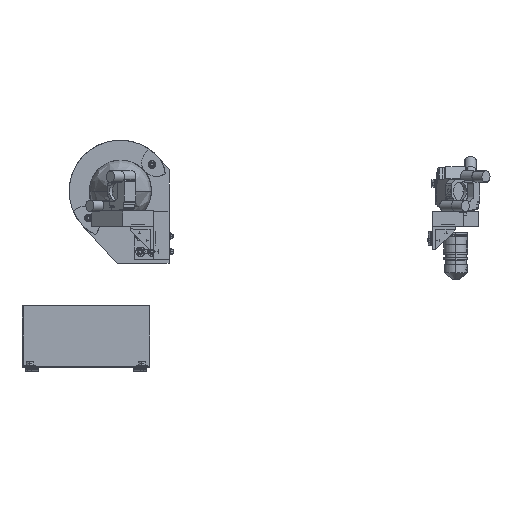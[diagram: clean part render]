
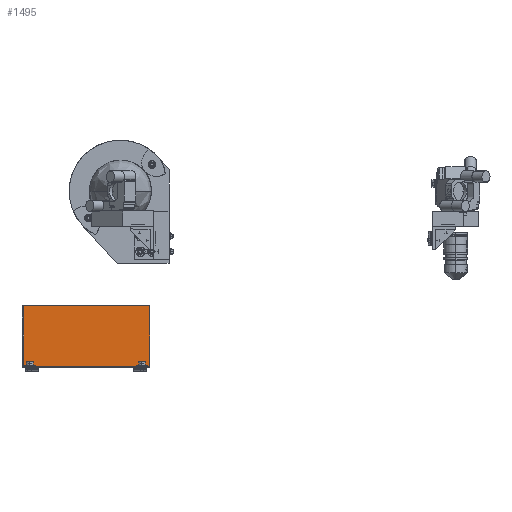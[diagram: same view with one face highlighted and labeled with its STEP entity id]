
A CAD part, left-side view. The second image highlights one B-rep face of the part: STEP entity #1495.
In plain terms, the highlighted planar face has unit normal (-1, 0, 0).
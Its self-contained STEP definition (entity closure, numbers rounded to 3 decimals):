
#1495=ADVANCED_FACE('',(#2345),#28781,.T.);
#2345=FACE_OUTER_BOUND('',#3214,.T.);
#3214=EDGE_LOOP('',(#4520,#4521,#4522,#4523));
#4520=ORIENTED_EDGE('',*,*,#23279,.F.);
#4521=ORIENTED_EDGE('',*,*,#23298,.F.);
#4522=ORIENTED_EDGE('',*,*,#23302,.F.);
#4523=ORIENTED_EDGE('',*,*,#23300,.F.);
#8630=B_SPLINE_CURVE_WITH_KNOTS('',1,(#40357,#40358),.UNSPECIFIED.,.F.,.F.,
(2,2),(404.,482.),.UNSPECIFIED.);
#8631=B_SPLINE_CURVE_WITH_KNOTS('',1,(#40359,#40360),.UNSPECIFIED.,.F.,.F.,
(2,2),(404.,482.),.UNSPECIFIED.);
#8679=B_SPLINE_CURVE_WITH_KNOTS('',1,(#40457,#40458),.UNSPECIFIED.,.F.,.F.,
(2,2),(241.,404.),.UNSPECIFIED.);
#8680=B_SPLINE_CURVE_WITH_KNOTS('',1,(#40459,#40460),.UNSPECIFIED.,.F.,.F.,
(2,2),(241.,404.),.UNSPECIFIED.);
#8685=B_SPLINE_CURVE_WITH_KNOTS('',1,(#40469,#40470),.UNSPECIFIED.,.F.,.F.,
(2,2),(0.,163.),.UNSPECIFIED.);
#8686=B_SPLINE_CURVE_WITH_KNOTS('',1,(#40471,#40472),.UNSPECIFIED.,.F.,.F.,
(2,2),(0.,163.),.UNSPECIFIED.);
#8691=B_SPLINE_CURVE_WITH_KNOTS('',1,(#40483,#40484),.UNSPECIFIED.,.F.,.F.,
(2,2),(163.,241.),.UNSPECIFIED.);
#8692=B_SPLINE_CURVE_WITH_KNOTS('',1,(#40485,#40486),.UNSPECIFIED.,.F.,.F.,
(2,2),(163.,241.),.UNSPECIFIED.);
#8695=B_SPLINE_CURVE_WITH_KNOTS('',1,(#40491,#40492),.UNSPECIFIED.,.F.,.F.,
(2,2),(404.,482.),.UNSPECIFIED.);
#8696=B_SPLINE_CURVE_WITH_KNOTS('',1,(#40493,#40494),.UNSPECIFIED.,.F.,.F.,
(2,2),(241.,404.),.UNSPECIFIED.);
#8697=B_SPLINE_CURVE_WITH_KNOTS('',1,(#40495,#40496),.UNSPECIFIED.,.F.,.F.,
(2,2),(163.,241.),.UNSPECIFIED.);
#8698=B_SPLINE_CURVE_WITH_KNOTS('',1,(#40497,#40498),.UNSPECIFIED.,.F.,.F.,
(2,2),(0.,163.),.UNSPECIFIED.);
#13089=PCURVE('',#28773,#17217);
#13119=PCURVE('',#28778,#17247);
#13123=PCURVE('',#28779,#17251);
#13127=PCURVE('',#28780,#17255);
#13130=PCURVE('',#28781,#17258);
#13131=PCURVE('',#28781,#17259);
#13132=PCURVE('',#28781,#17260);
#13133=PCURVE('',#28781,#17261);
#17217=DEFINITIONAL_REPRESENTATION('',(#8631),#75631);
#17247=DEFINITIONAL_REPRESENTATION('',(#8680),#75631);
#17251=DEFINITIONAL_REPRESENTATION('',(#8686),#75631);
#17255=DEFINITIONAL_REPRESENTATION('',(#8692),#75631);
#17258=DEFINITIONAL_REPRESENTATION('',(#8695),#75631);
#17259=DEFINITIONAL_REPRESENTATION('',(#8696),#75631);
#17260=DEFINITIONAL_REPRESENTATION('',(#8697),#75631);
#17261=DEFINITIONAL_REPRESENTATION('',(#8698),#75631);
#21174=SURFACE_CURVE('',#8630,(#13089,#13130),.PCURVE_S1.);
#21193=SURFACE_CURVE('',#8679,(#13119,#13131),.PCURVE_S1.);
#21195=SURFACE_CURVE('',#8685,(#13123,#13133),.PCURVE_S1.);
#21197=SURFACE_CURVE('',#8691,(#13127,#13132),.PCURVE_S1.);
#23279=EDGE_CURVE('',#27079,#27077,#21174,.T.);
#23298=EDGE_CURVE('',#27082,#27079,#21193,.T.);
#23300=EDGE_CURVE('',#27077,#27076,#21195,.T.);
#23302=EDGE_CURVE('',#27076,#27082,#21197,.T.);
#27076=VERTEX_POINT('',#40331);
#27077=VERTEX_POINT('',#40332);
#27079=VERTEX_POINT('',#40334);
#27082=VERTEX_POINT('',#40337);
#28773=PLANE('',#29573);
#28778=PLANE('',#29578);
#28779=PLANE('',#29579);
#28780=PLANE('',#29580);
#28781=PLANE('',#29581);
#29573=AXIS2_PLACEMENT_3D('',#40313,#30137,$);
#29578=AXIS2_PLACEMENT_3D('',#40318,#30142,$);
#29579=AXIS2_PLACEMENT_3D('',#40319,#30143,$);
#29580=AXIS2_PLACEMENT_3D('',#40320,#30144,$);
#29581=AXIS2_PLACEMENT_3D('',#40321,#30145,$);
#30137=DIRECTION('',(0.,-1.,0.));
#30142=DIRECTION('',(0.,0.,1.));
#30143=DIRECTION('',(0.,0.,1.));
#30144=DIRECTION('',(0.,-1.,0.));
#30145=DIRECTION('',(-1.,0.,0.));
#40313=CARTESIAN_POINT('',(-390.,380.,-160.));
#40318=CARTESIAN_POINT('',(-390.,380.,-80.));
#40319=CARTESIAN_POINT('',(-480.,380.,-158.));
#40320=CARTESIAN_POINT('',(-480.,543.,-158.));
#40321=CARTESIAN_POINT('',(-380.,380.,-158.));
#40331=CARTESIAN_POINT('',(-380.,543.,-158.));
#40332=CARTESIAN_POINT('',(-380.,380.,-158.));
#40334=CARTESIAN_POINT('',(-380.,380.,-80.));
#40337=CARTESIAN_POINT('',(-380.,543.,-80.));
#40357=CARTESIAN_POINT('',(-380.,380.,-80.));
#40358=CARTESIAN_POINT('',(-380.,380.,-158.));
#40359=CARTESIAN_POINT('',(10.,80.));
#40360=CARTESIAN_POINT('',(10.,2.));
#40457=CARTESIAN_POINT('',(-380.,543.,-80.));
#40458=CARTESIAN_POINT('',(-380.,380.,-80.));
#40459=CARTESIAN_POINT('',(10.,163.));
#40460=CARTESIAN_POINT('',(10.,0.));
#40469=CARTESIAN_POINT('',(-380.,380.,-158.));
#40470=CARTESIAN_POINT('',(-380.,543.,-158.));
#40471=CARTESIAN_POINT('',(100.,0.));
#40472=CARTESIAN_POINT('',(100.,163.));
#40483=CARTESIAN_POINT('',(-380.,543.,-158.));
#40484=CARTESIAN_POINT('',(-380.,543.,-80.));
#40485=CARTESIAN_POINT('',(100.,163.));
#40486=CARTESIAN_POINT('',(100.,241.));
#40491=CARTESIAN_POINT('',(78.,0.));
#40492=CARTESIAN_POINT('',(0.,0.));
#40493=CARTESIAN_POINT('',(78.,163.));
#40494=CARTESIAN_POINT('',(78.,0.));
#40495=CARTESIAN_POINT('',(0.,163.));
#40496=CARTESIAN_POINT('',(78.,163.));
#40497=CARTESIAN_POINT('',(0.,0.));
#40498=CARTESIAN_POINT('',(0.,163.));
#75631=(
GEOMETRIC_REPRESENTATION_CONTEXT(2)
PARAMETRIC_REPRESENTATION_CONTEXT()
REPRESENTATION_CONTEXT('pspace','')
);
